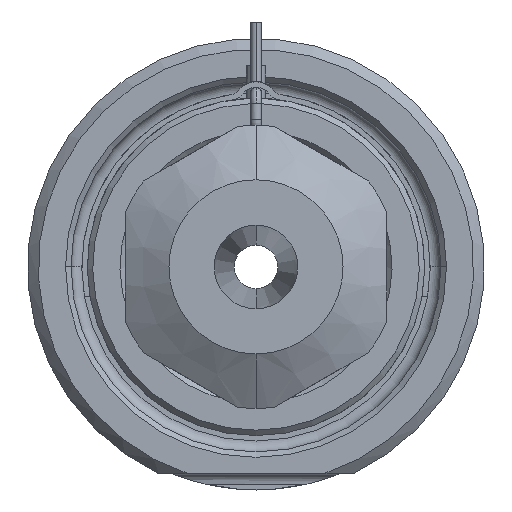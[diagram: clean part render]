
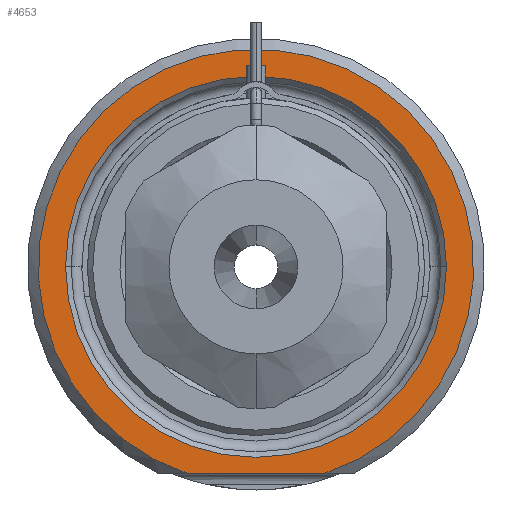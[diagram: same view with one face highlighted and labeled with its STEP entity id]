
A CAD part, front view. The second image highlights one B-rep face of the part: STEP entity #4653.
In plain terms, the highlighted planar face has unit normal (0, -1, 0).
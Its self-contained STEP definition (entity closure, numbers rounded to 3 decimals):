
#1618=CARTESIAN_POINT('',(0.,0.,0.));
#1619=DIRECTION('',(0.,-1.,0.));
#1620=DIRECTION('',(0.312,0.,-0.95));
#1621=AXIS2_PLACEMENT_3D('',#1618,#1619,#1620);
#1642=DIRECTION('',(1.,0.,0.));
#1643=VECTOR('',#1642,12.49);
#1644=CARTESIAN_POINT('',(-6.245,0.,-19.));
#1645=LINE('',#1644,#1643);
#1646=CARTESIAN_POINT('',(0.,0.,0.));
#1647=DIRECTION('',(0.,1.,0.));
#1648=DIRECTION('',(-1.,0.,0.));
#1649=AXIS2_PLACEMENT_3D('',#1646,#1647,#1648);
#1651=CARTESIAN_POINT('',(0.,0.,0.));
#1652=DIRECTION('',(0.,1.,0.));
#1653=DIRECTION('',(1.,0.,0.));
#1654=AXIS2_PLACEMENT_3D('',#1651,#1652,#1653);
#2535=CARTESIAN_POINT('',(-17.5,0.,0.));
#2536=CARTESIAN_POINT('',(17.5,0.,0.));
#2537=VERTEX_POINT('',#2535);
#2538=VERTEX_POINT('',#2536);
#2579=CARTESIAN_POINT('',(-6.245,0.,-19.));
#2580=CARTESIAN_POINT('',(6.245,0.,-19.));
#2581=VERTEX_POINT('',#2579);
#2582=VERTEX_POINT('',#2580);
#4638=CARTESIAN_POINT('',(0.,0.,0.));
#4639=DIRECTION('',(0.,-1.,0.));
#4640=DIRECTION('',(1.,0.,0.));
#4641=AXIS2_PLACEMENT_3D('',#4638,#4639,#4640);
#4642=PLANE('',#4641);
#4643=ORIENTED_EDGE('',*,*,#4570,.F.);
#4644=ORIENTED_EDGE('',*,*,#4630,.F.);
#4645=EDGE_LOOP('',(#4643,#4644));
#4646=FACE_OUTER_BOUND('',#4645,.F.);
#4648=ORIENTED_EDGE('',*,*,#4647,.F.);
#4650=ORIENTED_EDGE('',*,*,#4649,.F.);
#4651=EDGE_LOOP('',(#4648,#4650));
#4652=FACE_BOUND('',#4651,.F.);
#4653=ADVANCED_FACE('',(#4646,#4652),#4642,.T.);
#1622=CIRCLE('',#1621,20.);
#1650=CIRCLE('',#1649,17.5);
#1655=CIRCLE('',#1654,17.5);
#4570=EDGE_CURVE('',#2581,#2582,#1645,.T.);
#4630=EDGE_CURVE('',#2582,#2581,#1622,.T.);
#4647=EDGE_CURVE('',#2537,#2538,#1650,.T.);
#4649=EDGE_CURVE('',#2538,#2537,#1655,.T.);
